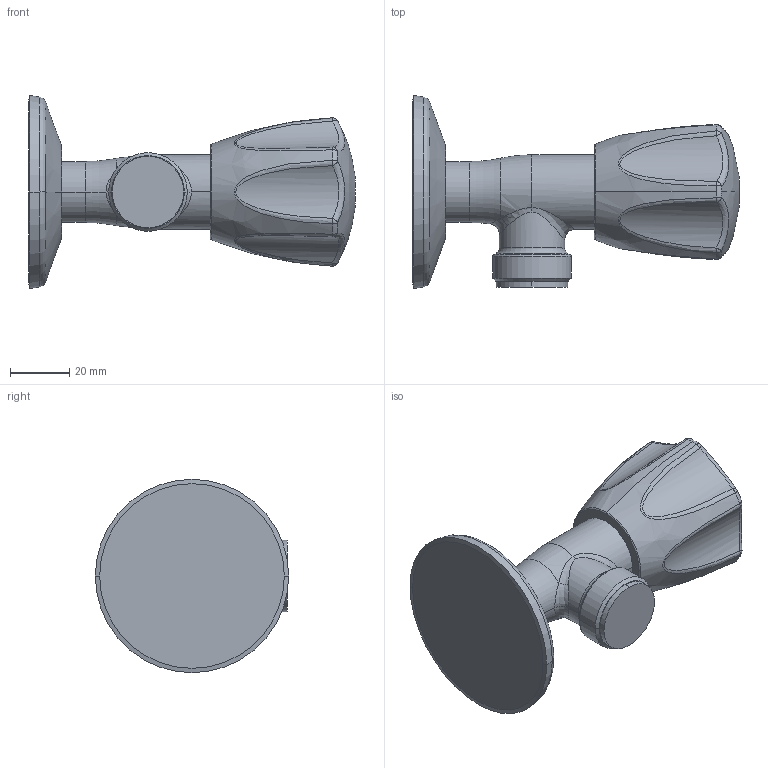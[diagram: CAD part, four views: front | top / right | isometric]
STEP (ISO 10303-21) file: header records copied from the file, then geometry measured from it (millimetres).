
FILE_DESCRIPTION((''),'2;1');
FILE_NAME('K_27_40_10_000Y34','2012-01-06T',('HEF'),(''),'PRO/ENGINEER BY PARAMETRIC TECHNOLOGY CORPORATION, 2011080','PRO/ENGINEER BY PARAMETRIC TECHNOLOGY CORPORATION, 2011080','');
FILE_SCHEMA(('AUTOMOTIVE_DESIGN_CC2 { 1 2 10303 214 -1 1 5 2 }'));
Length unit declared in the file: millimetre
Products named in the file (1): K_27_40_10_000Y34
Bounding box: 109.63 x 65 x 65 mm (x, y, z)
Volume: 120874.9 mm3; surface area: 20754.5 mm2
Topology: 1 solids, 1 shells, 123 faces, 275 edges, 160 vertices
Faces by surface type: plane 38, bspline 21, torus 20, cylinder 18, sphere 14, cone 10, extrusion 2
Entity records: 7696 total; most frequent: CARTESIAN_POINT 3681, DIRECTION 565, ORIENTED_EDGE 550, EDGE_CURVE 275, AXIS2_PLACEMENT_3D 226, FILL_AREA_STYLE_COLOUR 211, FILL_AREA_STYLE 211, SURFACE_STYLE_FILL_AREA 211
